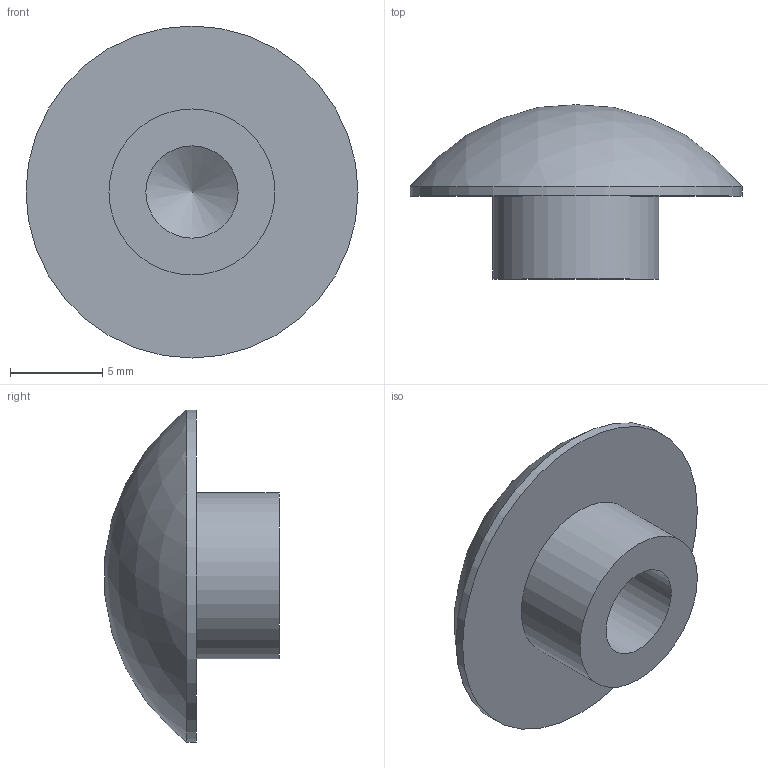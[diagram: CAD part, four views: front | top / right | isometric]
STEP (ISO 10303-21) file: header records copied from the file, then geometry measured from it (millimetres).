
FILE_DESCRIPTION (( 'STEP AP214' ), '1' );
FILE_NAME ('N90209.step', '2024-12-03T16:28:02', ( '' ), ( '' ), 'SwSTEP 2.0', 'SolidWorks 2023', '' );
FILE_SCHEMA (( 'AUTOMOTIVE_DESIGN' ));
Length unit declared in the file: millimetre
Products named in the file (1): N90209
Bounding box: 18 x 9.45 x 18 mm (x, y, z)
Volume: 876.7 mm3; surface area: 849.1 mm2
Topology: 1 solids, 1 shells, 7 faces, 11 edges, 7 vertices
Faces by surface type: cylinder 3, plane 2, sphere 1, cone 1
Full cylindrical faces by diameter (mm): 5 x1, 9 x1, 18 x1
Entity records: 157 total; most frequent: DIRECTION 28, CARTESIAN_POINT 20, AXIS2_PLACEMENT_3D 14, ORIENTED_EDGE 12, EDGE_LOOP 12, FACE_OUTER_BOUND 10, ADVANCED_FACE 7, EDGE_CURVE 6
